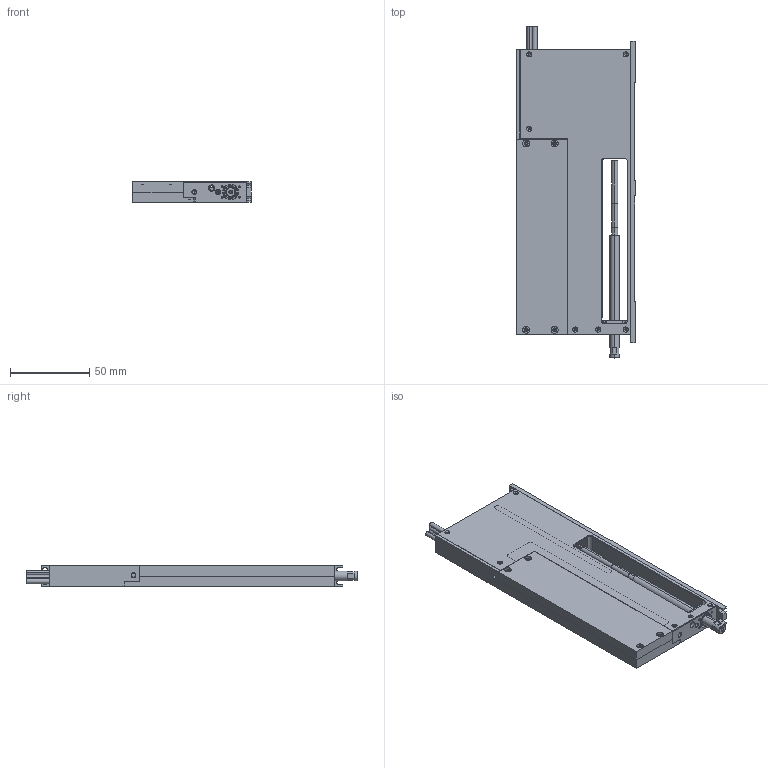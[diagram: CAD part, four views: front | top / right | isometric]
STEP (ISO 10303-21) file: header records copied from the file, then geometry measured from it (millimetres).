
FILE_DESCRIPTION (( 'STEP AP203' ), '1' );
FILE_NAME ('LCR13-035-XX-6_F.STEP', '2019-04-18T18:33:08', ( '' ), ( '' ), 'SwSTEP 2.0', 'SolidWorks 2018', '' );
FILE_SCHEMA (( 'CONFIG_CONTROL_DESIGN' ));
Length unit declared in the file: millimetre
Products named in the file (9): LCR13 DUM CABLE; 230122-01_A; LCR13-035-XX-6_F; 16594-36_A3; 11632-35_F; 180101-01_B; 24658-02_A; 14720-36_B; 14720-35_B
Assembly tree (9 placements, depth 2):
  LCR13-035-XX-6_F
    11632-35_F
    230122-01_A
    LCR13 DUM CABLE  x2
    24658-02_A
    180101-01_B
    16594-36_A3
    14720-36_B
    14720-35_B
Bounding box: 75 x 210 x 13 mm (x, y, z)
Volume: 62947.2 mm3; surface area: 68528.3 mm2
Topology: 13 solids, 13 shells, 678 faces, 1773 edges, 1094 vertices
Faces by surface type: cylinder 277, plane 228, cone 173
Entity records: 21468 total; most frequent: DIRECTION 3709, CARTESIAN_POINT 3630, ORIENTED_EDGE 3390, EDGE_CURVE 1695, AXIS2_PLACEMENT_3D 1361, VERTEX_POINT 1078, VECTOR 987, LINE 987
